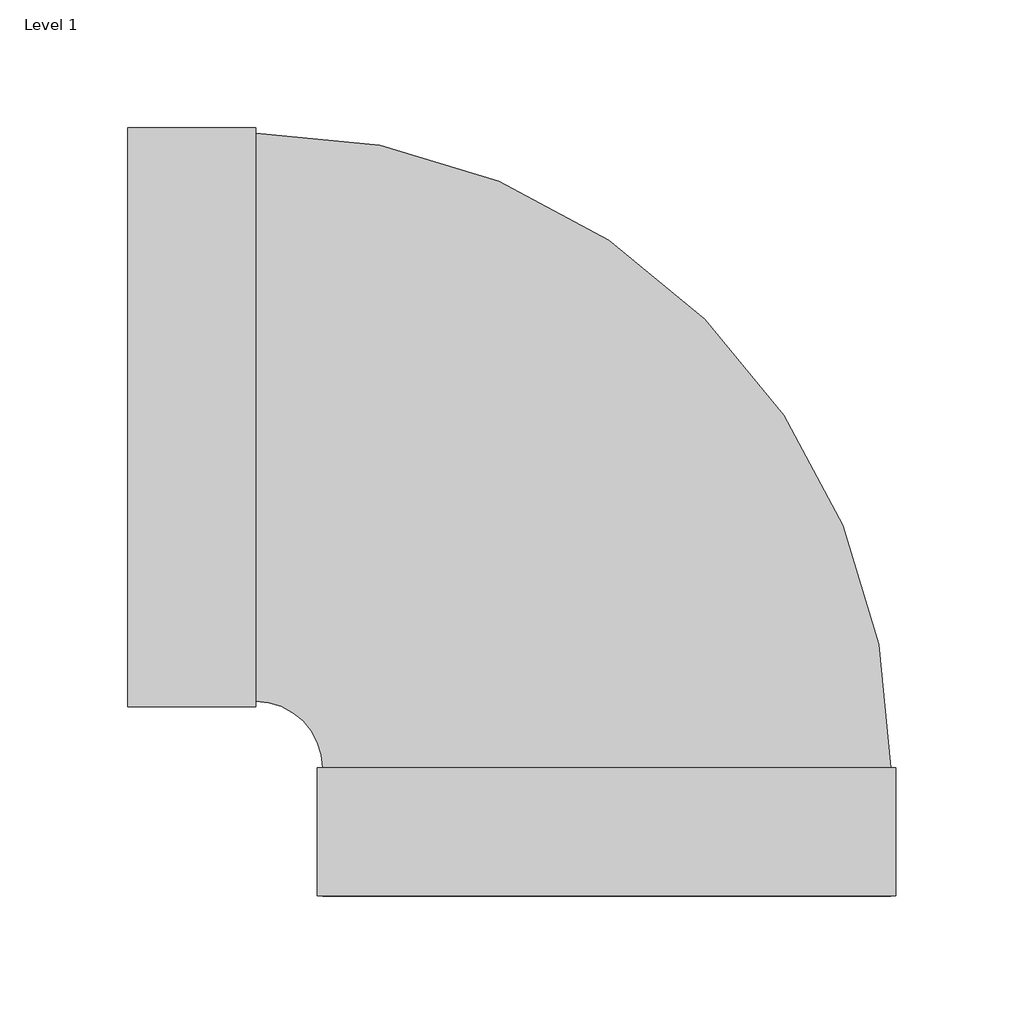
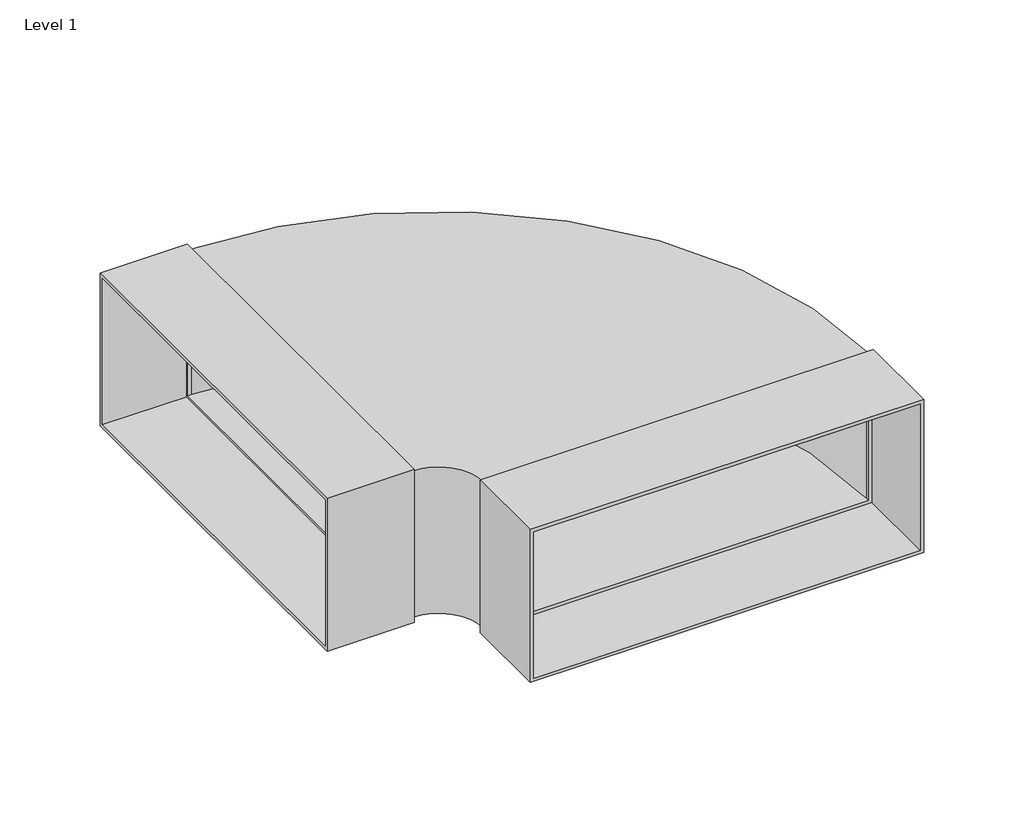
# One storey: 1 proxy.
"""IFC4 building model written with IfcOpenShell, lengths in millimetres."""

from ifc_helpers import new_model, si_unit, origin, place, context, project, spatial, transform, mapped, element, save
from components import specialty_equipment_b8d4c64e

model = new_model("IFC4")

# Units and contexts
model_context = context("Model", 3, world=origin())
ifc_project = project(units=[si_unit("LENGTHUNIT", "METRE", prefix="MILLI")], contexts=[model_context])

# Site, building, storey
site = spatial("IfcSite", under=ifc_project)
building = spatial("IfcBuilding", under=site)
storey = spatial("IfcBuildingStorey", under=building, Name="Level 1", Elevation=0.0)

# Proxy
placement = place(None, origin())
specialty_equipment_shape = specialty_equipment_b8d4c64e(model_context)
element("IfcBuildingElementProxy", 1, Name="10811390_D_DFK-BH90 : 28996390_D_10811390_DFK-BH90", ObjectType="10811390_D_DFK-BH90 : 28996390_D_10811390_DFK-BH90", at=placement, inside=storey, context=model_context, shape_type="MappedRepresentation", body=[
    mapped(specialty_equipment_shape, transform((0.0, 0.0, 0.0), x_axis=(1.0, 0.0, 0.0), y_axis=(0.0, 1.0, 0.0), z_axis=(0.0, 0.0, 1.0))),
])

save(model, "model.ifc")
